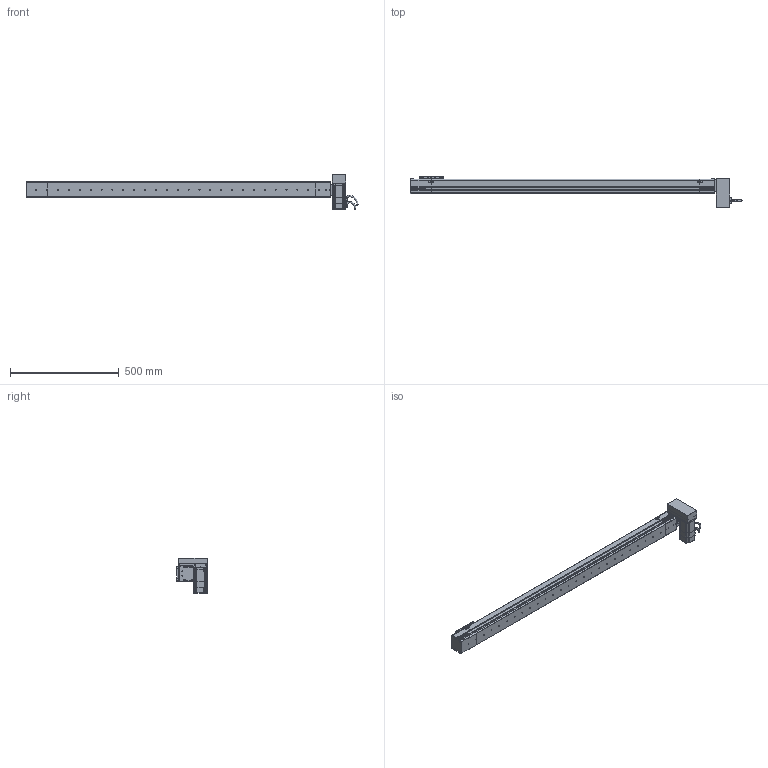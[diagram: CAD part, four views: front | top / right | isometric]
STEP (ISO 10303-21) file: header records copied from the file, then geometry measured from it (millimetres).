
FILE_DESCRIPTION (( 'STEP AP214' ), '1' );
FILE_NAME ('S07 CBN LU S1300.STEP', '2010-06-29T10:46:57', ( 'Conseil Régional Haute-Normandie' ), ( 'Conseil Régional Haute-Normandie' ), 'SwSTEP 2.0', 'SolidWorks 2010', '' );
FILE_SCHEMA (( 'AUTOMOTIVE_DESIGN' ));
Length unit declared in the file: millimetre
Products named in the file (31): 60BLDC90A-640_Default; Support Moteur LU_Default; Rondelle de Serrage LU_Default; Couvercle LU_Default; Cache Support Moteur LU_Default; vis M5 L8_Default; support chariot_Default; chariot_Default; Chariot S07_Default; vis M5 L15_Default; Tail S07 Tail_Default; Couvercle S07 S1300_Default; Corp S07 S1300_Default; plaque de serrage Tail_Default; Plaque de bout Tail_Default; Couvercle Tail_Default; Corp Tail_Default; VisM3_Default; P1_Default; Conecteur2 60BLDC_Default; P3 90A_Default; P2 90A_Default; Conecteur 60BLDC_Default; Axe 60BLDC_Default; P4_Default; S07 CBN LU S1300; plaque de serrage LU_Default; Plaque de bout LU_Default; Corp LU_Default; Head LU_Default
Assembly tree (71 placements, depth 4):
  S07 CBN LU S1300
    Tail S07 Tail_Default
      vis M5 L15_Default  x6
      Plaque de bout Tail_Default
      plaque de serrage Tail_Default
      Couvercle Tail_Default
      Corp Tail_Default
    Head LU_Default
      vis M5 L15_Default  x16
      Rondelle de Serrage LU_Default  x3
      60BLDC90A-640_Default
        VisM3_Default  x12
        Conecteur2 60BLDC_Default
        P3 90A_Default
        P4_Default
        P2 90A_Default
        P1_Default
        Conecteur 60BLDC_Default
        Axe 60BLDC_Default
      Support Moteur LU_Default
      Couvercle LU_Default
      Cache Support Moteur LU_Default
      Plaque de bout LU_Default
      plaque de serrage LU_Default
      Corp LU_Default
    Corp S07 S1300_Default
      Corp S07 S1300_Default
      Couvercle S07 S1300_Default
    Chariot S07_Default
      vis M5 L8_Default  x8
      chariot_Default
      support chariot_Default
Bounding box: 1525.7 x 142 x 162 mm (x, y, z)
Volume: 7505102.4 mm3; surface area: 887967.2 mm2
Topology: 108 solids, 108 shells, 3928 faces, 9662 edges, 6220 vertices
Faces by surface type: plane 2262, bspline 756, cylinder 699, torus 112, cone 95, sphere 4
Entity records: 154313 total; most frequent: CARTESIAN_POINT 79747, ORIENTED_EDGE 14844, DIRECTION 11155, EDGE_CURVE 7422, VERTEX_POINT 4905, LINE 4797, VECTOR 4797, EDGE_LOOP 3197
